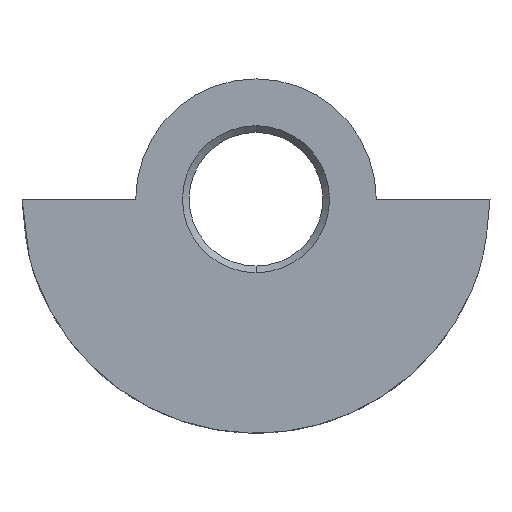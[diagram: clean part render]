
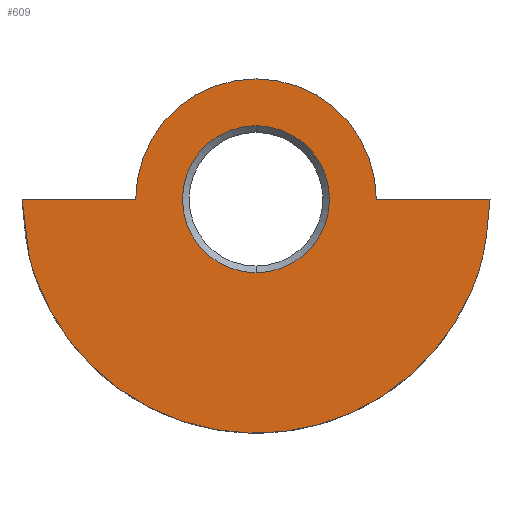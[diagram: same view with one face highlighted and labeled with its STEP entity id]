
A CAD part, front view. The second image highlights one B-rep face of the part: STEP entity #609.
In plain terms, the highlighted planar face has unit normal (0, -1, 0).
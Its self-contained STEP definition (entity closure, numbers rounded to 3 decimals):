
#11 = CARTESIAN_POINT ( 'NONE',  ( -6.76, 0., -16.266 ) ) ;
#12 = ORIENTED_EDGE ( 'NONE', *, *, #43, .F. ) ;
#18 = EDGE_CURVE ( 'NONE', #518, #476, #557, .T. ) ;
#31 = ORIENTED_EDGE ( 'NONE', *, *, #18, .T. ) ;
#32 = CARTESIAN_POINT ( 'NONE',  ( 9., 0., 0. ) ) ;
#43 = EDGE_CURVE ( 'NONE', #192, #269, #293, .T. ) ;
#55 = CARTESIAN_POINT ( 'NONE',  ( -9., 0., 0. ) ) ;
#59 = CARTESIAN_POINT ( 'NONE',  ( 0., 0., -17.5 ) ) ;
#61 = CARTESIAN_POINT ( 'NONE',  ( 0., 0., -17.615 ) ) ;
#88 = ORIENTED_EDGE ( 'NONE', *, *, #516, .T. ) ;
#89 = EDGE_CURVE ( 'NONE', #91, #474, #543, .T. ) ;
#91 = VERTEX_POINT ( 'NONE', #224 ) ;
#104 = DIRECTION ( 'NONE',  ( -1., 0., 0. ) ) ;
#109 = DIRECTION ( 'NONE',  ( 0., 0., -1. ) ) ;
#123 = CARTESIAN_POINT ( 'NONE',  ( -17.5, 0., 0. ) ) ;
#126 = DIRECTION ( 'NONE',  ( 1., 0., 0. ) ) ;
#136 = LINE ( 'NONE', #442, #143 ) ;
#138 = CARTESIAN_POINT ( 'NONE',  ( 15.326, 0., -8.828 ) ) ;
#143 = VECTOR ( 'NONE', #126, 1000. ) ;
#150 = DIRECTION ( 'NONE',  ( 0., 1., 0. ) ) ;
#152 = CARTESIAN_POINT ( 'NONE',  ( -17.154, 0., -4.565 ) ) ;
#156 = EDGE_LOOP ( 'NONE', ( #12, #393, #31, #88, #288 ) ) ;
#159 = CARTESIAN_POINT ( 'NONE',  ( 17.5, 0., 0. ) ) ;
#161 = DIRECTION ( 'NONE',  ( 0., 1., 0. ) ) ;
#172 = ORIENTED_EDGE ( 'NONE', *, *, #89, .T. ) ;
#173 = AXIS2_PLACEMENT_3D ( 'NONE', #233, #576, #276 ) ;
#184 = CARTESIAN_POINT ( 'NONE',  ( 17.385, 0., -1.522 ) ) ;
#192 = VERTEX_POINT ( 'NONE', #55 ) ;
#193 = VECTOR ( 'NONE', #104, 1000. ) ;
#195 = ORIENTED_EDGE ( 'NONE', *, *, #583, .T. ) ;
#210 = FACE_OUTER_BOUND ( 'NONE', #156, .T. ) ;
#224 = CARTESIAN_POINT ( 'NONE',  ( 0., 0., 5.5 ) ) ;
#226 = CARTESIAN_POINT ( 'NONE',  ( 0., 0., 0. ) ) ;
#232 = CARTESIAN_POINT ( 'NONE',  ( -15.326, 0., -8.828 ) ) ;
#233 = CARTESIAN_POINT ( 'NONE',  ( 0., 0., 0. ) ) ;
#243 = LINE ( 'NONE', #411, #193 ) ;
#264 = DIRECTION ( 'NONE',  ( 0., 0., -1. ) ) ;
#269 = VERTEX_POINT ( 'NONE', #601 ) ;
#275 = CARTESIAN_POINT ( 'NONE',  ( -9.807, 0., -14.627 ) ) ;
#276 = DIRECTION ( 'NONE',  ( 0., 0., -1. ) ) ;
#282 = AXIS2_PLACEMENT_3D ( 'NONE', #430, #161, #480 ) ;
#288 = ORIENTED_EDGE ( 'NONE', *, *, #598, .F. ) ;
#293 = CIRCLE ( 'NONE', #282, 9. ) ;
#322 = CARTESIAN_POINT ( 'NONE',  ( -3.447, 0., -17.271 ) ) ;
#331 = AXIS2_PLACEMENT_3D ( 'NONE', #226, #564, #264 ) ;
#347 = FACE_BOUND ( 'NONE', #381, .T. ) ;
#370 = DIRECTION ( 'NONE',  ( 0., -1., 0. ) ) ;
#377 = AXIS2_PLACEMENT_3D ( 'NONE', #417, #150, #469 ) ;
#379 = AXIS2_PLACEMENT_3D ( 'NONE', #59, #370, #109 ) ;
#381 = EDGE_LOOP ( 'NONE', ( #195, #172 ) ) ;
#384 = EDGE_CURVE ( 'NONE', #518, #192, #136, .T. ) ;
#393 = ORIENTED_EDGE ( 'NONE', *, *, #384, .F. ) ;
#402 = VERTEX_POINT ( 'NONE', #32 ) ;
#403 = CARTESIAN_POINT ( 'NONE',  ( 12.774, 0., -12.191 ) ) ;
#407 = CARTESIAN_POINT ( 'NONE',  ( 9.807, 0., -14.627 ) ) ;
#411 = CARTESIAN_POINT ( 'NONE',  ( 12.75, 0., 0. ) ) ;
#417 = CARTESIAN_POINT ( 'NONE',  ( 0., 0., 0. ) ) ;
#429 = CARTESIAN_POINT ( 'NONE',  ( 0., 0., -5.5 ) ) ;
#430 = CARTESIAN_POINT ( 'NONE',  ( 0., 0., 0. ) ) ;
#442 = CARTESIAN_POINT ( 'NONE',  ( -12.75, 0., 0. ) ) ;
#455 = CARTESIAN_POINT ( 'NONE',  ( 17.154, 0., -4.565 ) ) ;
#469 = DIRECTION ( 'NONE',  ( 0., 0., 1. ) ) ;
#470 = CARTESIAN_POINT ( 'NONE',  ( -17.385, 0., -1.522 ) ) ;
#474 = VERTEX_POINT ( 'NONE', #429 ) ;
#476 = VERTEX_POINT ( 'NONE', #159 ) ;
#480 = DIRECTION ( 'NONE',  ( 0., 0., 1. ) ) ;
#483 = CIRCLE ( 'NONE', #173, 5.5 ) ;
#503 = CARTESIAN_POINT ( 'NONE',  ( 6.76, 0., -16.266 ) ) ;
#512 = CARTESIAN_POINT ( 'NONE',  ( 17.5, 0., 0. ) ) ;
#516 = EDGE_CURVE ( 'NONE', #476, #402, #243, .T. ) ;
#518 = VERTEX_POINT ( 'NONE', #123 ) ;
#527 = CARTESIAN_POINT ( 'NONE',  ( -17.5, 0., 0. ) ) ;
#543 = CIRCLE ( 'NONE', #331, 5.5 ) ;
#554 = CARTESIAN_POINT ( 'NONE',  ( 3.447, 0., -17.271 ) ) ;
#556 = CIRCLE ( 'NONE', #377, 9. ) ;
#557 = B_SPLINE_CURVE_WITH_KNOTS ( 'NONE', 3,
 ( #527, #470, #152, #232, #575, #275, #11, #322, #61, #554, #503, #407, #403, #138, #455, #184, #512 ),
 .UNSPECIFIED., .F., .F.,
 ( 4, 1, 1, 1, 1, 1, 1, 1, 1, 1, 1, 1, 1, 1, 4 ),
 ( 0., 0.083, 0.167, 0.25, 0.312, 0.375, 0.438, 0.5, 0.562, 0.625, 0.688, 0.75, 0.833, 0.917, 1. ),
 .UNSPECIFIED. ) ;
#564 = DIRECTION ( 'NONE',  ( 0., 1., 0. ) ) ;
#573 = PLANE ( 'NONE',  #379 ) ;
#575 = CARTESIAN_POINT ( 'NONE',  ( -12.774, 0., -12.191 ) ) ;
#576 = DIRECTION ( 'NONE',  ( 0., 1., 0. ) ) ;
#583 = EDGE_CURVE ( 'NONE', #474, #91, #483, .T. ) ;
#598 = EDGE_CURVE ( 'NONE', #269, #402, #556, .T. ) ;
#601 = CARTESIAN_POINT ( 'NONE',  ( 0., 0., 9. ) ) ;
#609 = ADVANCED_FACE ( 'NONE', ( #347, #210 ), #573, .T. ) ;
